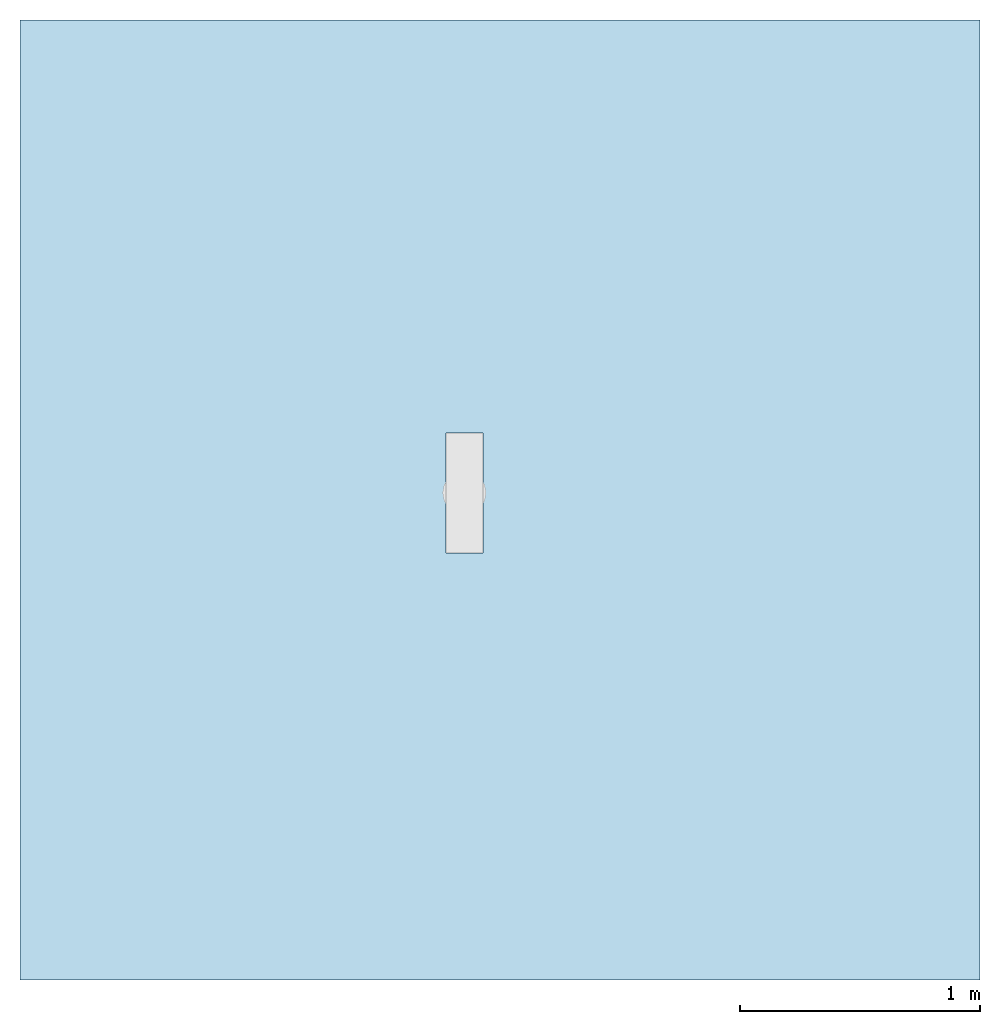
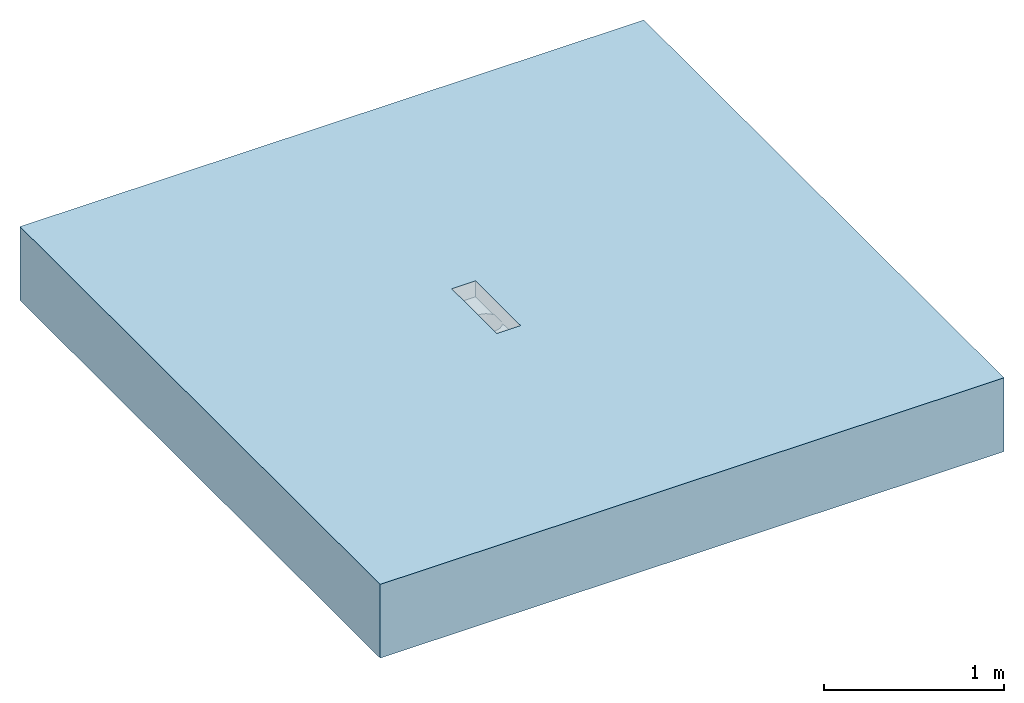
# One storey, incomplete: 1 slab, 1 opening.
"""IFC2X3 building model written with IfcOpenShell, lengths in millimetres."""

from ifc_helpers import new_model, entity, si_unit, converted_unit, direction, frame, frame_2d, origin, place, context, subcontext, project, spatial, rectangle, extrude, faceted_brep, material, layer, layer_set, layer_usage, element, save


model = new_model("IFC2X3")

# Units and contexts
model_context = context("Model", 3, precision=1e-06, world=origin(), true_north=direction((2.0, 6.12303176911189e-17, 1.0)))
context_of_model = context(None, 3, precision=1e-06, world=origin(), true_north=direction((2.0, 6.12303176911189e-17, 1.0)))
body_context = subcontext(model_context, "Body", "Model", "MODEL_VIEW")
ifc_project = project(units=[si_unit("LENGTHUNIT", "METRE", prefix="MILLI"), si_unit("AREAUNIT", "SQUARE_METRE", prefix="MILLI"), si_unit("VOLUMEUNIT", "CUBIC_METRE", prefix="MILLI"), converted_unit("PLANEANGLEUNIT", "DEGREE", entity("IfcRatioMeasure", 0.0174532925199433), si_unit("PLANEANGLEUNIT", "RADIAN"), dimensions=[0, 0, 0, 0, 0, 0, 0]), si_unit("TIMEUNIT", "SECOND")], contexts=[model_context, context_of_model])

# Site, building, storey
site_placement = place(None, origin())
site = spatial("IfcSite", under=ifc_project, at=site_placement, Name="Default", CompositionType="ELEMENT")
building_placement = place(site_placement, origin())
building = spatial("IfcBuilding", under=site, at=building_placement, CompositionType="ELEMENT")
storey_placement = place(building_placement, origin())
storey = spatial("IfcBuildingStorey", under=building, at=storey_placement, Name="Level 1", CompositionType="ELEMENT", Elevation=0.0)

# Slab, opening
ifc_material = material(Name="Concrete, Broom Finish")
ifc_layer = layer(ifc_material, 500.0)
ifc_layer_set = layer_set([ifc_layer], Name="Floor:Generic Floor - 500mm")
ifc_layer_usage = layer_usage(ifc_layer_set, "AXIS3", "POSITIVE", 0.0)
slab_placement = place(storey_placement, origin())
slab = element("IfcSlab", 1, at=slab_placement, inside=storey, material=ifc_layer_usage, Name="Floor:Generic Floor - 500mm", ObjectType="Floor:Generic Floor - 500mm", PredefinedType="FLOOR", context=body_context, shape_type="SweptSolid", body=[
    extrude(rectangle(XDim=4000.0, YDim=4000.0, at=frame_2d((0.0, 0.0), x_axis=(-1.0, 0.0))), frame((-419.114478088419, -735.273497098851, 0.0), z_axis=(0.0, 0.0, -1.0), x_axis=(-1.0, 0.0, 0.0)), (0.0, 0.0, 1.0), 500.0),
])
opening_placement = place(slab_placement, frame((-660.083679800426, -955.371403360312, -372.0)))
element("IfcOpeningElement", 2, at=opening_placement, cuts=slab, ObjectType="Recess", context=body_context, shape_type="Brep", body=[
    faceted_brep([(181.93744767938, 232.709086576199, 269.0), (177.04778664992, 216.106448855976, 269.0), (169.095272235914, 200.717650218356, 269.0), (169.095272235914, 299.282349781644, 269.0), (177.04778664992, 283.893551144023, 269.0), (181.93744767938, 267.2909134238, 269.0), (183.595272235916, 250.0, 269.0), (8.14072230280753, 216.111521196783, 269.0), (3.25334780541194, 232.707789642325, 269.0), (16.0952722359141, 200.717650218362, 269.0), (8.14072230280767, 283.888478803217, 269.0), (1.59527223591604, 250.0, 269.0), (3.25334780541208, 267.292210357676, 269.0), (16.0952722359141, 299.282349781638, 269.0), (16.0952722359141, 500.0, 264.200000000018), (16.0952722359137, 299.282349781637, 264.200000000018), (30.641113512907, 316.653448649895, 264.200000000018), (169.095272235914, 500.0, 264.200000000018), (136.163070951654, 329.892721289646, 264.200000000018), (154.549430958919, 316.653448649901, 264.200000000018), (169.095272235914, 299.282349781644, 264.200000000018), (70.1145876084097, 338.179469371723, 264.200000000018), (49.0274735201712, 329.892721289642, 264.200000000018), (92.595272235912, 341.0, 264.200000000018), (115.075956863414, 338.179469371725, 264.200000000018), (92.595272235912, 159.0, 264.200000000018), (70.1145876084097, 161.820530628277, 264.200000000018), (16.0952722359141, 0.0, 264.200000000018), (49.0274735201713, 170.107278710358, 264.200000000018), (115.075956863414, 161.820530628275, 264.200000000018), (169.095272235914, 0.0, 264.200000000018), (136.163070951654, 170.107278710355, 264.200000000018), (30.641113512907, 183.346551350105, 264.200000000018), (16.0952722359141, 200.717650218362, 264.200000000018), (169.095272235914, 200.717650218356, 264.200000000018), (154.549430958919, 183.346551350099, 264.200000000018), (169.095272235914, 0.0, 372.0), (16.0952722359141, 0.0, 372.0), (16.0952722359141, 500.0, 372.0), (169.095272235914, 500.0, 372.0), (92.5952722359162, 341.0, 0.0), (69.0427391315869, 337.899250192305, 0.0), (116.147805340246, 337.899250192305, 0.0), (138.095272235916, 328.808311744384, 0.0), (156.941989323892, 314.346717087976, 0.0), (171.4035839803, 295.5, 0.0), (13.786960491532, 204.5, 0.0), (13.7869604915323, 295.5, 0.0), (47.0952722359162, 328.808311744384, 0.0), (28.2485551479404, 314.346717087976, 0.0), (4.69602204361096, 273.55253310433, 0.0), (1.59527223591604, 250.0, 0.0), (180.494522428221, 273.552533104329, 0.0), (180.494522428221, 226.44746689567, 0.0), (183.595272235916, 250.0, 0.0), (156.941989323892, 185.653282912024, 0.0), (171.4035839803, 204.5, 0.0), (116.147805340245, 162.100749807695, 0.0), (138.095272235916, 171.191688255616, 0.0), (69.0427391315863, 162.100749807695, 0.0), (28.24855514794, 185.653282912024, 0.0), (4.69602204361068, 226.447466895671, 0.0), (47.0952722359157, 171.191688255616, 0.0), (92.5952722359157, 159.0, 0.0)], [[[0, 1, 2]], [[3, 0, 2]], [[4, 5, 6]], [[4, 0, 3]], [[6, 0, 4]], [[7, 8, 9]], [[10, 9, 8]], [[8, 11, 10]], [[10, 11, 12]], [[13, 9, 10]], [[14, 15, 16]], [[17, 18, 19]], [[17, 19, 20]], [[21, 14, 22]], [[16, 22, 14]], [[23, 14, 21]], [[17, 23, 24]], [[14, 23, 17]], [[18, 17, 24]], [[25, 26, 27]], [[28, 27, 26]], [[29, 25, 30]], [[27, 30, 25]], [[31, 29, 30]], [[27, 28, 32]], [[27, 32, 33]], [[30, 34, 35]], [[30, 35, 31]], [[27, 36, 30]], [[36, 27, 37]], [[17, 38, 14]], [[38, 17, 39]], [[39, 36, 37]], [[37, 38, 39]], [[27, 9, 37]], [[38, 37, 9]], [[9, 27, 33]], [[14, 38, 13]], [[9, 13, 38]], [[13, 15, 14]], [[2, 34, 30]], [[39, 2, 36]], [[30, 36, 2]], [[3, 17, 20]], [[2, 39, 3]], [[17, 3, 39]], [[40, 41, 42]], [[43, 42, 44]], [[41, 45, 42]], [[44, 42, 45]], [[46, 45, 47]], [[48, 49, 41]], [[47, 41, 49]], [[50, 51, 47]], [[45, 41, 47]], [[51, 46, 47]], [[46, 52, 45]], [[53, 54, 55]], [[56, 53, 55]], [[57, 58, 55]], [[59, 55, 54]], [[57, 55, 59]], [[46, 60, 54]], [[46, 51, 61]], [[62, 59, 60]], [[54, 60, 59]], [[59, 63, 57]], [[54, 52, 46]], [[61, 51, 8]], [[61, 7, 46]], [[28, 59, 62]], [[62, 60, 32]], [[60, 46, 33]], [[63, 59, 26]], [[11, 8, 51]], [[7, 33, 46]], [[7, 61, 8]], [[7, 9, 33]], [[32, 60, 33]], [[62, 32, 28]], [[28, 26, 59]], [[26, 25, 63]], [[29, 63, 25]], [[57, 63, 29]], [[57, 31, 58]], [[1, 53, 56]], [[56, 55, 34]], [[55, 58, 35]], [[54, 53, 0]], [[31, 57, 29]], [[35, 58, 31]], [[35, 34, 55]], [[1, 34, 2]], [[1, 56, 34]], [[53, 1, 0]], [[0, 6, 54]], [[45, 52, 4]], [[5, 52, 54]], [[18, 42, 43]], [[44, 19, 43]], [[20, 44, 45]], [[40, 42, 24]], [[3, 20, 4]], [[52, 5, 4]], [[5, 54, 6]], [[4, 20, 45]], [[19, 44, 20]], [[43, 19, 18]], [[18, 24, 42]], [[24, 23, 40]], [[21, 40, 23]], [[41, 40, 21]], [[41, 22, 48]], [[10, 50, 47]], [[47, 49, 15]], [[49, 48, 16]], [[51, 50, 12]], [[22, 41, 21]], [[16, 48, 22]], [[16, 15, 49]], [[10, 15, 13]], [[10, 47, 15]], [[50, 10, 12]], [[12, 11, 51]]]),
])

save(model, "model.ifc")
